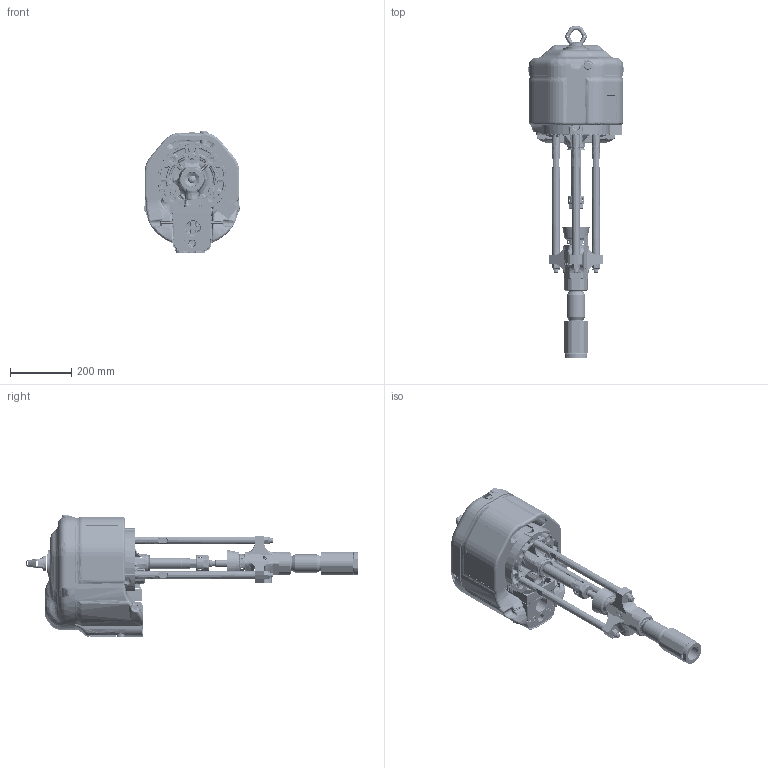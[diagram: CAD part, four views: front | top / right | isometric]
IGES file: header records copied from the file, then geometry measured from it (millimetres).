
Start section:  PTC IGES file: p31css-en-a.igs
Global section: file name: p31css-en-a.igs; native system: Creo Parametric by PTC Inc.; preprocessor: 2019030; author: qusrh3; organization: Unknown; date: 20200528.135351; units: inch
Bounding box: 314.71 x 1079.85 x 395.13 mm (x, y, z)
Surface area: 2791768.5 mm2 (no closed solid volume)
Topology: 0 solids, 0 shells, 5416 faces, 32425 edges, 32413 vertices
Faces by surface type: revolution 2890, bspline 2516, extrusion 10
